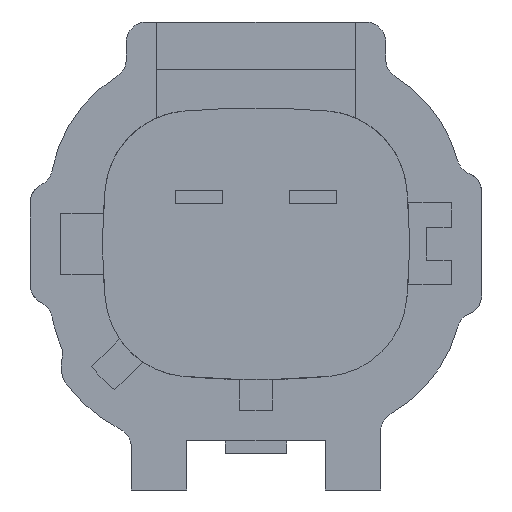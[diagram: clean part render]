
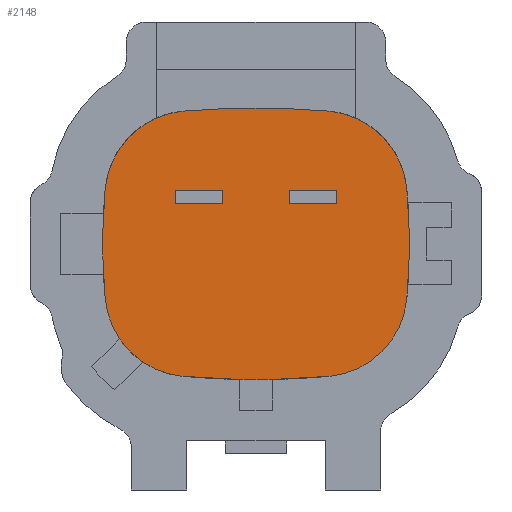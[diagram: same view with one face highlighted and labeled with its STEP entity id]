
A CAD part, left-side view. The second image highlights one B-rep face of the part: STEP entity #2148.
In plain terms, the highlighted planar face has unit normal (-1, 0, 0).
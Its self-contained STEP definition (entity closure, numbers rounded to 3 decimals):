
#1774=CARTESIAN_POINT('Vertex',(0.,-3.572,6.49)) ;
#1777=CARTESIAN_POINT('Axis2P3D Location',(0.,-3.197,2.307)) ;
#1781=CARTESIAN_POINT('Vertex',(0.,-7.38,2.683)) ;
#1814=CARTESIAN_POINT('Vertex',(0.,3.572,6.49)) ;
#1817=CARTESIAN_POINT('Axis2P3D Location',(0.,0.,-33.35)) ;
#1847=CARTESIAN_POINT('Vertex',(0.,7.38,2.683)) ;
#1850=CARTESIAN_POINT('Axis2P3D Location',(0.,3.197,2.307)) ;
#1886=CARTESIAN_POINT('Axis2P3D Location',(0.,22.5,0.)) ;
#1890=CARTESIAN_POINT('Vertex',(0.,-7.38,-2.683)) ;
#1933=CARTESIAN_POINT('Axis2P3D Location',(0.,-3.197,-2.307)) ;
#1937=CARTESIAN_POINT('Vertex',(0.,-3.572,-6.49)) ;
#1968=CARTESIAN_POINT('Vertex',(0.,7.38,-2.683)) ;
#1971=CARTESIAN_POINT('Axis2P3D Location',(0.,-22.5,0.)) ;
#2002=CARTESIAN_POINT('Axis2P3D Location',(0.,0.,33.35)) ;
#2006=CARTESIAN_POINT('Vertex',(0.,3.572,-6.49)) ;
#2060=CARTESIAN_POINT('Axis2P3D Location',(0.,0.,0.)) ;
#2065=CARTESIAN_POINT('Axis2P3D Location',(0.,3.197,-2.307)) ;
#2080=CARTESIAN_POINT('Line Origine',(0.,-3.95,2.3)) ;
#2084=CARTESIAN_POINT('Vertex',(0.,-3.95,1.98)) ;
#2086=CARTESIAN_POINT('Vertex',(0.,-3.95,2.62)) ;
#2089=CARTESIAN_POINT('Line Origine',(0.,-2.8,1.98)) ;
#2093=CARTESIAN_POINT('Vertex',(0.,-1.65,1.98)) ;
#2096=CARTESIAN_POINT('Line Origine',(0.,-1.65,2.3)) ;
#2100=CARTESIAN_POINT('Vertex',(0.,-1.65,2.62)) ;
#2103=CARTESIAN_POINT('Line Origine',(0.,-2.8,2.62)) ;
#2114=CARTESIAN_POINT('Line Origine',(0.,2.8,2.62)) ;
#2118=CARTESIAN_POINT('Vertex',(0.,3.95,2.62)) ;
#2120=CARTESIAN_POINT('Vertex',(0.,1.65,2.62)) ;
#2123=CARTESIAN_POINT('Line Origine',(0.,1.65,2.3)) ;
#2127=CARTESIAN_POINT('Vertex',(0.,1.65,1.98)) ;
#2130=CARTESIAN_POINT('Line Origine',(0.,2.8,1.98)) ;
#2134=CARTESIAN_POINT('Vertex',(0.,3.95,1.98)) ;
#2137=CARTESIAN_POINT('Line Origine',(0.,3.95,2.3)) ;
#1778=DIRECTION('Axis2P3D Direction',(-1.,0.,0.)) ;
#1818=DIRECTION('Axis2P3D Direction',(-1.,0.,0.)) ;
#1851=DIRECTION('Axis2P3D Direction',(-1.,0.,0.)) ;
#1887=DIRECTION('Axis2P3D Direction',(-1.,0.,0.)) ;
#1934=DIRECTION('Axis2P3D Direction',(-1.,-0.,0.)) ;
#1972=DIRECTION('Axis2P3D Direction',(-1.,0.,0.)) ;
#2003=DIRECTION('Axis2P3D Direction',(-1.,0.,0.)) ;
#2061=DIRECTION('Axis2P3D Direction',(-1.,0.,0.)) ;
#2062=DIRECTION('Axis2P3D XDirection',(-0.,-1.,-0.)) ;
#2066=DIRECTION('Axis2P3D Direction',(-1.,0.,0.)) ;
#2081=DIRECTION('Vector Direction',(0.,0.,1.)) ;
#2090=DIRECTION('Vector Direction',(0.,1.,0.)) ;
#2097=DIRECTION('Vector Direction',(0.,0.,-1.)) ;
#2104=DIRECTION('Vector Direction',(0.,-1.,0.)) ;
#2115=DIRECTION('Vector Direction',(0.,-1.,0.)) ;
#2124=DIRECTION('Vector Direction',(0.,0.,-1.)) ;
#2131=DIRECTION('Vector Direction',(0.,1.,0.)) ;
#2138=DIRECTION('Vector Direction',(0.,0.,1.)) ;
#1779=AXIS2_PLACEMENT_3D('Circle Axis2P3D',#1777,#1778,$) ;
#1819=AXIS2_PLACEMENT_3D('Circle Axis2P3D',#1817,#1818,$) ;
#1852=AXIS2_PLACEMENT_3D('Circle Axis2P3D',#1850,#1851,$) ;
#1888=AXIS2_PLACEMENT_3D('Circle Axis2P3D',#1886,#1887,$) ;
#1935=AXIS2_PLACEMENT_3D('Circle Axis2P3D',#1933,#1934,$) ;
#1973=AXIS2_PLACEMENT_3D('Circle Axis2P3D',#1971,#1972,$) ;
#2004=AXIS2_PLACEMENT_3D('Circle Axis2P3D',#2002,#2003,$) ;
#2063=AXIS2_PLACEMENT_3D('Plane Axis2P3D',#2060,#2061,#2062) ;
#2067=AXIS2_PLACEMENT_3D('Circle Axis2P3D',#2065,#2066,$) ;
#2071=ORIENTED_EDGE('',*,*,#2008,.T.) ;
#2072=ORIENTED_EDGE('',*,*,#1939,.T.) ;
#2073=ORIENTED_EDGE('',*,*,#1892,.T.) ;
#2074=ORIENTED_EDGE('',*,*,#1783,.T.) ;
#2075=ORIENTED_EDGE('',*,*,#1821,.T.) ;
#2076=ORIENTED_EDGE('',*,*,#1854,.T.) ;
#2077=ORIENTED_EDGE('',*,*,#1975,.T.) ;
#2078=ORIENTED_EDGE('',*,*,#2069,.T.) ;
#2109=ORIENTED_EDGE('',*,*,#2088,.F.) ;
#2110=ORIENTED_EDGE('',*,*,#2095,.T.) ;
#2111=ORIENTED_EDGE('',*,*,#2102,.F.) ;
#2112=ORIENTED_EDGE('',*,*,#2107,.T.) ;
#2143=ORIENTED_EDGE('',*,*,#2122,.T.) ;
#2144=ORIENTED_EDGE('',*,*,#2129,.T.) ;
#2145=ORIENTED_EDGE('',*,*,#2136,.T.) ;
#2146=ORIENTED_EDGE('',*,*,#2141,.T.) ;
#2113=FACE_BOUND('',#2108,.T.) ;
#2147=FACE_BOUND('',#2142,.T.) ;
#2082=VECTOR('Line Direction',#2081,1.) ;
#2091=VECTOR('Line Direction',#2090,1.) ;
#2098=VECTOR('Line Direction',#2097,1.) ;
#2105=VECTOR('Line Direction',#2104,1.) ;
#2116=VECTOR('Line Direction',#2115,1.) ;
#2125=VECTOR('Line Direction',#2124,1.) ;
#2132=VECTOR('Line Direction',#2131,1.) ;
#2139=VECTOR('Line Direction',#2138,1.) ;
#2148=ADVANCED_FACE('\X2\FF8EFF9EFF83FF9EFF68FF70\X0\.5',(#2079,#2113,#2147),#2064,.T.) ;
#1780=CIRCLE('generated circle',#1779,4.2) ;
#1820=CIRCLE('generated circle',#1819,40.) ;
#1853=CIRCLE('generated circle',#1852,4.2) ;
#1889=CIRCLE('generated circle',#1888,30.) ;
#1936=CIRCLE('generated circle',#1935,4.2) ;
#1974=CIRCLE('generated circle',#1973,30.) ;
#2005=CIRCLE('generated circle',#2004,40.) ;
#2068=CIRCLE('generated circle',#2067,4.2) ;
#1783=EDGE_CURVE('',#1782,#1775,#1780,.T.) ;
#1821=EDGE_CURVE('',#1775,#1815,#1820,.T.) ;
#1854=EDGE_CURVE('',#1815,#1848,#1853,.T.) ;
#1892=EDGE_CURVE('',#1891,#1782,#1889,.T.) ;
#1939=EDGE_CURVE('',#1938,#1891,#1936,.T.) ;
#1975=EDGE_CURVE('',#1848,#1969,#1974,.T.) ;
#2008=EDGE_CURVE('',#2007,#1938,#2005,.T.) ;
#2069=EDGE_CURVE('',#1969,#2007,#2068,.T.) ;
#2088=EDGE_CURVE('',#2085,#2087,#2083,.T.) ;
#2095=EDGE_CURVE('',#2085,#2094,#2092,.T.) ;
#2102=EDGE_CURVE('',#2101,#2094,#2099,.T.) ;
#2107=EDGE_CURVE('',#2101,#2087,#2106,.T.) ;
#2122=EDGE_CURVE('',#2119,#2121,#2117,.T.) ;
#2129=EDGE_CURVE('',#2121,#2128,#2126,.T.) ;
#2136=EDGE_CURVE('',#2128,#2135,#2133,.T.) ;
#2141=EDGE_CURVE('',#2135,#2119,#2140,.T.) ;
#2070=EDGE_LOOP('',(#2071,#2072,#2073,#2074,#2075,#2076,#2077,#2078)) ;
#2108=EDGE_LOOP('',(#2109,#2110,#2111,#2112)) ;
#2142=EDGE_LOOP('',(#2143,#2144,#2145,#2146)) ;
#2079=FACE_OUTER_BOUND('',#2070,.T.) ;
#2083=LINE('Line',#2080,#2082) ;
#2092=LINE('Line',#2089,#2091) ;
#2099=LINE('Line',#2096,#2098) ;
#2106=LINE('Line',#2103,#2105) ;
#2117=LINE('Line',#2114,#2116) ;
#2126=LINE('Line',#2123,#2125) ;
#2133=LINE('Line',#2130,#2132) ;
#2140=LINE('Line',#2137,#2139) ;
#2064=PLANE('',#2063) ;
#1775=VERTEX_POINT('',#1774) ;
#1782=VERTEX_POINT('',#1781) ;
#1815=VERTEX_POINT('',#1814) ;
#1848=VERTEX_POINT('',#1847) ;
#1891=VERTEX_POINT('',#1890) ;
#1938=VERTEX_POINT('',#1937) ;
#1969=VERTEX_POINT('',#1968) ;
#2007=VERTEX_POINT('',#2006) ;
#2085=VERTEX_POINT('',#2084) ;
#2087=VERTEX_POINT('',#2086) ;
#2094=VERTEX_POINT('',#2093) ;
#2101=VERTEX_POINT('',#2100) ;
#2119=VERTEX_POINT('',#2118) ;
#2121=VERTEX_POINT('',#2120) ;
#2128=VERTEX_POINT('',#2127) ;
#2135=VERTEX_POINT('',#2134) ;
